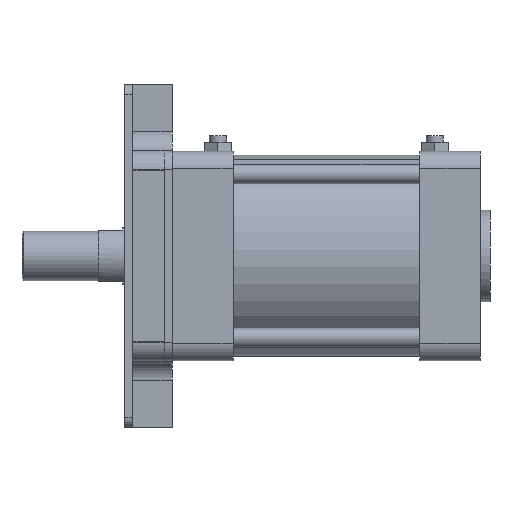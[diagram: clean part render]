
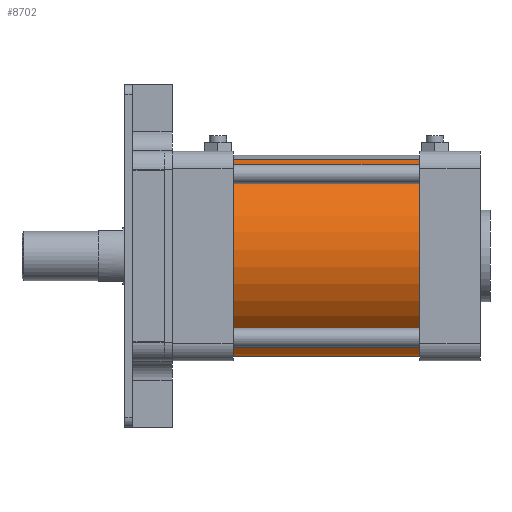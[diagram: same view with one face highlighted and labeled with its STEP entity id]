
A CAD part, front view. The second image highlights one B-rep face of the part: STEP entity #8702.
In plain terms, the highlighted cylindrical face has radius 53 mm (diameter 106 mm), a partial arc.
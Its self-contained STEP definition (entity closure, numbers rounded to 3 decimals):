
#290 = CARTESIAN_POINT ( 'NONE',  ( 49., 0., 0. ) ) ;
#349 = LINE ( 'NONE', #5924, #8691 ) ;
#930 = DIRECTION ( 'NONE',  ( 0., 0., -1. ) ) ;
#1266 = VERTEX_POINT ( 'NONE', #5708 ) ;
#1388 = EDGE_CURVE ( 'NONE', #8663, #1266, #6696, .T. ) ;
#1414 = CARTESIAN_POINT ( 'NONE',  ( -49., 0., -53. ) ) ;
#2037 = EDGE_CURVE ( 'NONE', #8248, #8663, #349, .T. ) ;
#2303 = CARTESIAN_POINT ( 'NONE',  ( 62.388, 0., -53. ) ) ;
#2397 = AXIS2_PLACEMENT_3D ( 'NONE', #290, #4122, #930 ) ;
#2569 = VERTEX_POINT ( 'NONE', #1414 ) ;
#3124 = DIRECTION ( 'NONE',  ( 1., 0., 0. ) ) ;
#3180 = EDGE_CURVE ( 'NONE', #2569, #1266, #3604, .T. ) ;
#3377 = DIRECTION ( 'NONE',  ( 1., 0., 0. ) ) ;
#3604 = LINE ( 'NONE', #2303, #7874 ) ;
#3704 = DIRECTION ( 'NONE',  ( 0., 0., -1. ) ) ;
#4122 = DIRECTION ( 'NONE',  ( 1., 0., 0. ) ) ;
#4438 = ORIENTED_EDGE ( 'NONE', *, *, #1388, .F. ) ;
#4505 = CARTESIAN_POINT ( 'NONE',  ( -49., 0., 0. ) ) ;
#5638 = ORIENTED_EDGE ( 'NONE', *, *, #2037, .F. ) ;
#5708 = CARTESIAN_POINT ( 'NONE',  ( 49., 0., -53. ) ) ;
#5829 = AXIS2_PLACEMENT_3D ( 'NONE', #8085, #7605, #6941 ) ;
#5924 = CARTESIAN_POINT ( 'NONE',  ( 62.388, 0., 53. ) ) ;
#6202 = CARTESIAN_POINT ( 'NONE',  ( -49., 0., 53. ) ) ;
#6348 = EDGE_CURVE ( 'NONE', #8248, #2569, #8004, .T. ) ;
#6696 = CIRCLE ( 'NONE', #2397, 53. ) ;
#6788 = CYLINDRICAL_SURFACE ( 'NONE', #5829, 53. ) ;
#6941 = DIRECTION ( 'NONE',  ( 0., 0., -1. ) ) ;
#7605 = DIRECTION ( 'NONE',  ( 1., 0., 0. ) ) ;
#7693 = ORIENTED_EDGE ( 'NONE', *, *, #6348, .T. ) ;
#7874 = VECTOR ( 'NONE', #3124, 1000. ) ;
#8004 = CIRCLE ( 'NONE', #9033, 53. ) ;
#8085 = CARTESIAN_POINT ( 'NONE',  ( 62.388, 0., 0. ) ) ;
#8248 = VERTEX_POINT ( 'NONE', #6202 ) ;
#8663 = VERTEX_POINT ( 'NONE', #9476 ) ;
#8691 = VECTOR ( 'NONE', #9714, 1000. ) ;
#8702 = ADVANCED_FACE ( 'NONE', ( #9177 ), #6788, .T. ) ;
#8703 = ORIENTED_EDGE ( 'NONE', *, *, #3180, .T. ) ;
#8828 = EDGE_LOOP ( 'NONE', ( #5638, #7693, #8703, #4438 ) ) ;
#9033 = AXIS2_PLACEMENT_3D ( 'NONE', #4505, #3377, #3704 ) ;
#9177 = FACE_OUTER_BOUND ( 'NONE', #8828, .T. ) ;
#9476 = CARTESIAN_POINT ( 'NONE',  ( 49., 0., 53. ) ) ;
#9714 = DIRECTION ( 'NONE',  ( 1., 0., 0. ) ) ;
